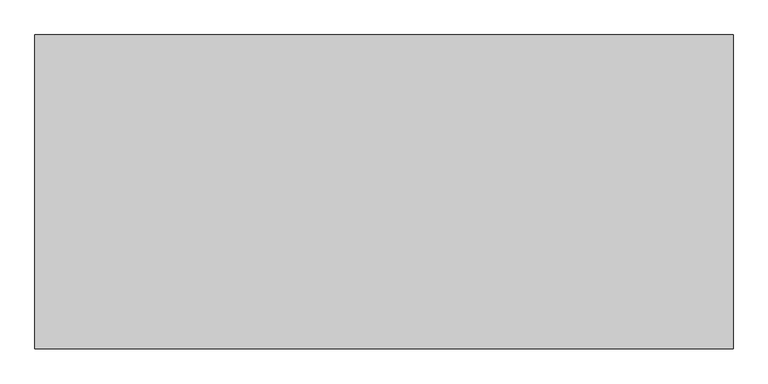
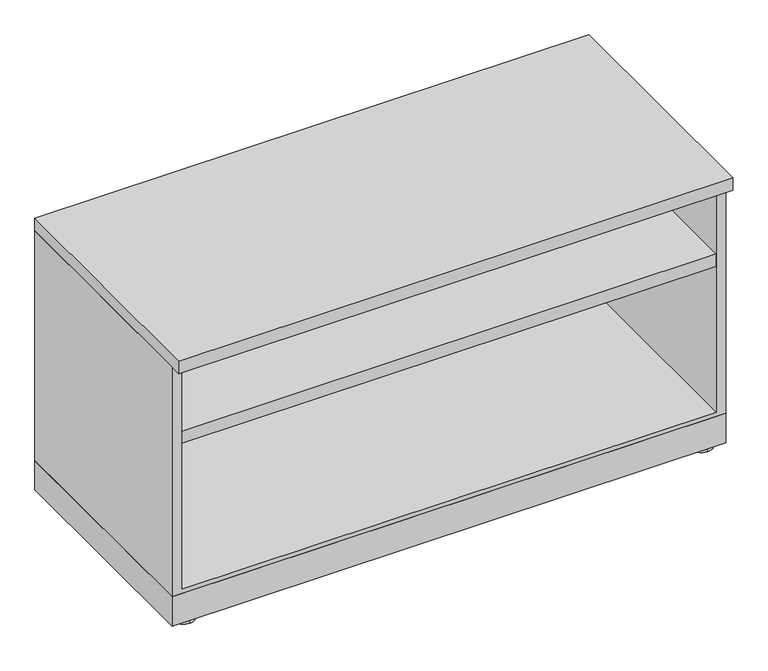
"""IFC4 building model written with IfcOpenShell, lengths in millimetres: furniture geometry, Steelcase - Universal Storage - Lateral File - 1.5 High - Proud Front : Open/Open - 18 7/8D x 42W."""

from ifc_helpers import new_model, si_unit, point, frame, frame_2d, origin, origin_with_axes, place, context, project, spatial, polyline, circle_curve, trimmed, segment, composite_curve, outline, extrude, source, transform, mapped, element, save


def furniture_64c1c14a(model_context):
    return source(origin(), model_context, "Body", "SweptSolid", [
        extrude(outline(polyline([(1066.8, 0.0), (1066.8, -457.2), (0.0, -457.2), (0.0, 0.0), (1066.8, 0.0)])), frame((0.0, 0.0, 6.3500002), z_axis=(0.0, 0.0, 1.0), x_axis=(1.0, 0.0, 0.0)), (0.0, 0.0, 1.0), 59.6899998),
        extrude(outline(composite_curve([segment(trimmed(circle_curve(frame_2d((1032.1290058, -22.3366334)), 20.32), [point((1032.1290058, -42.6566334))], [point((1032.1290058, -2.0166334))], False, "CARTESIAN"), True, "CONTINUOUS"), segment(trimmed(circle_curve(frame_2d((1032.1290058, -22.3366334)), 20.32), [point((1032.1290058, -2.0166334))], [point((1032.1290058, -42.6566334))], False, "CARTESIAN"), True, "CONTINUOUS")], self_intersect=False)), origin_with_axes(), (0.0, 0.0, 1.0), 6.3500002),
        extrude(outline(composite_curve([segment(trimmed(circle_curve(frame_2d((1032.1290058, -436.4508545)), 20.32), [point((1032.1290058, -456.7708545))], [point((1032.1290058, -416.1308545))], False, "CARTESIAN"), True, "CONTINUOUS"), segment(trimmed(circle_curve(frame_2d((1032.1290058, -436.4508545)), 20.32), [point((1032.1290058, -416.1308545))], [point((1032.1290058, -456.7708545))], False, "CARTESIAN"), True, "CONTINUOUS")], self_intersect=False)), origin_with_axes(), (0.0, 0.0, 1.0), 6.3500002),
        extrude(outline(composite_curve([segment(trimmed(circle_curve(frame_2d((34.29, -22.3366334)), 20.32), [point((34.29, -2.0166334))], [point((34.29, -42.6566334))], False, "CARTESIAN"), True, "CONTINUOUS"), segment(trimmed(circle_curve(frame_2d((34.29, -22.3366334)), 20.32), [point((34.29, -42.6566334))], [point((34.29, -2.0166334))], False, "CARTESIAN"), True, "CONTINUOUS")], self_intersect=False)), origin_with_axes(), (0.0, 0.0, 1.0), 6.3500002),
        extrude(outline(composite_curve([segment(trimmed(circle_curve(frame_2d((34.29, -436.4508545)), 20.32), [point((34.29, -416.1308545))], [point((34.29, -456.7708545))], False, "CARTESIAN"), True, "CONTINUOUS"), segment(trimmed(circle_curve(frame_2d((34.29, -436.4508545)), 20.32), [point((34.29, -456.7708545))], [point((34.29, -416.1308545))], False, "CARTESIAN"), True, "CONTINUOUS")], self_intersect=False)), origin_with_axes(), (0.0, 0.0, 1.0), 6.3500002),
        extrude(outline(polyline([(533.273, 19.05), (533.273, 0.0), (66.04, 0.0), (66.04, 1066.8), (533.273, 1066.8), (533.273, 1047.75), (75.184001, 1047.75), (75.184001, 19.05), (533.273, 19.05)])), frame((0.0, -457.0730121, 0.0), z_axis=(0.0, 1.0, 0.0), x_axis=(0.0, 0.0, 1.0)), (0.0, 0.0, 1.0), 457.0730121),
        extrude(outline(polyline([(1047.75, 0.0), (1047.75, -3.9370001), (19.05, -3.9370001), (19.05, 0.0), (1047.75, 0.0)])), frame((0.0, 0.0, 75.184001), z_axis=(0.0, 0.0, 1.0), x_axis=(1.0, 0.0, 0.0)), (0.0, 0.0, 1.0), 458.088999),
        extrude(outline(polyline([(-16.1036001, 371.5511945), (-457.0730121, 371.5511945), (-457.0730121, 396.8242158), (-19.2785993, 396.8242158), (-19.2785993, 410.7941843), (-16.1036001, 410.7941843), (-16.1036001, 371.5511945)])), frame((19.05, 0.0, 0.0), z_axis=(1.0, 0.0, 0.0), x_axis=(0.0, 1.0, 0.0)), (0.0, 0.0, 1.0), 1028.7),
        extrude(outline(polyline([(1066.8, 0.0), (1066.8, -479.298), (0.0, -479.298), (0.0, 0.0), (1066.8, 0.0)])), frame((0.0, 0.0, 533.273), z_axis=(0.0, 0.0, 1.0), x_axis=(1.0, 0.0, 0.0)), (0.0, 0.0, 1.0), 25.399985),
    ])


if __name__ == "__main__":
    model = new_model("IFC4")
    model_context = context("Model", 3, world=origin())
    ifc_project = project(units=[si_unit("LENGTHUNIT", "METRE", prefix="MILLI")], contexts=[model_context])
    site = spatial("IfcSite", under=ifc_project)
    building = spatial("IfcBuilding", under=site)
    placement = place(None, origin())
    furniture_shape = furniture_64c1c14a(model_context)
    element("IfcFurniture", 1, ObjectType="Steelcase - Universal Storage - Lateral File - 1.5 High - Proud Front : Open/Open - 18 7/8D x 42W", at=placement, inside=building, context=model_context, shape_type="MappedRepresentation", body=[
        mapped(furniture_shape, transform((0.0, 0.0, 0.0), x_axis=(1.0, 0.0, 0.0), y_axis=(0.0, 1.0, 0.0), z_axis=(0.0, 0.0, 1.0))),
    ])
    save(model, "model.ifc")
